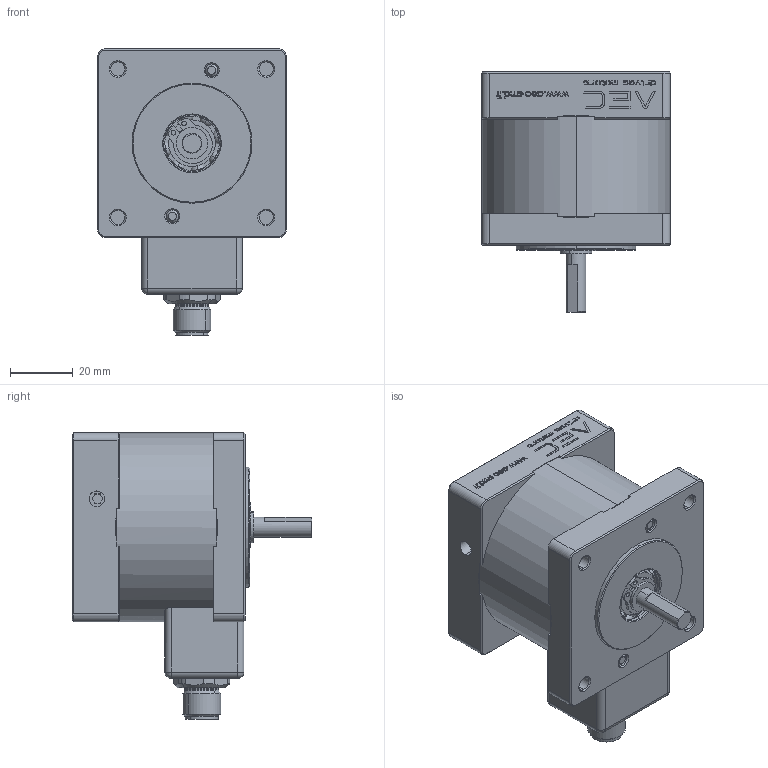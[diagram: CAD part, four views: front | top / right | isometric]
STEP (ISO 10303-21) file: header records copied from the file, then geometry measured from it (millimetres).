
FILE_DESCRIPTION (( 'STEP AP214' ), '1' );
FILE_NAME ('EB23-063-063-D-C.STEP', '2025-07-02T14:53:57', ( '' ), ( '' ), 'SwSTEP 2.0', 'SolidWorks 2019', '' );
FILE_SCHEMA (( 'AUTOMOTIVE_DESIGN' ));
Length unit declared in the file: millimetre
Products named in the file (1): EB23-063-063-D-C
Bounding box: 60 x 76.2 x 91 mm (x, y, z)
Volume: 168592.8 mm3; surface area: 76497.4 mm2
Topology: 17 solids, 20 shells, 1326 faces, 3413 edges, 2186 vertices
Faces by surface type: plane 573, cylinder 315, bspline 174, cone 152, sphere 68, torus 44
Entity records: 64917 total; most frequent: CARTESIAN_POINT 18673, ORIENTED_EDGE 6758, DIRECTION 6101, EDGE_CURVE 3379, VERTEX_POINT 2186, AXIS2_PLACEMENT_3D 2157, LINE 1787, VECTOR 1787
